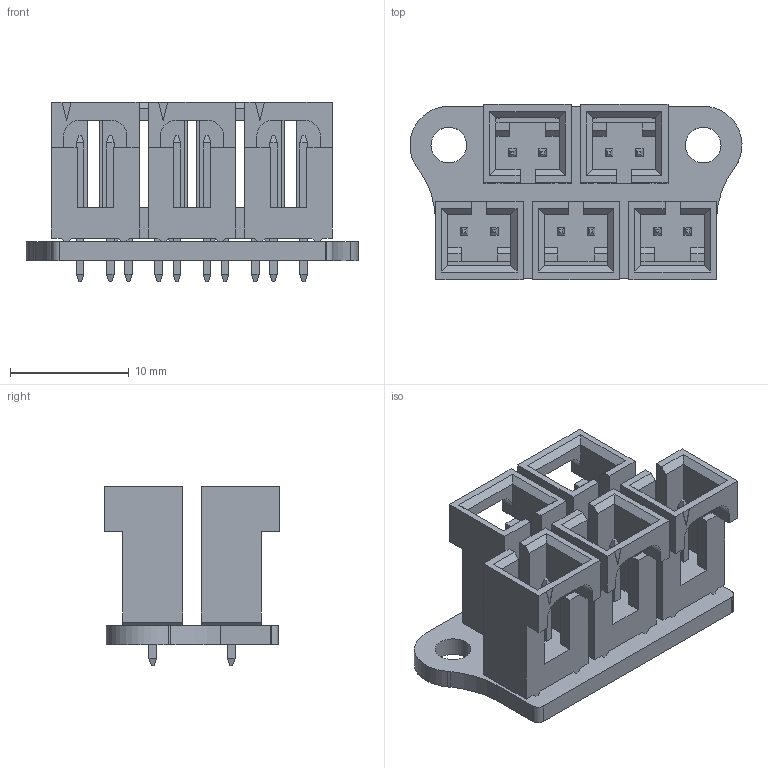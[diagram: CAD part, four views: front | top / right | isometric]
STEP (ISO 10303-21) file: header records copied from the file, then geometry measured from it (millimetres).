
FILE_DESCRIPTION(('KiCad electronic assembly'),'2;1');
FILE_NAME('TEE-CAN.step','2024-12-14T15:03:24',('Pcbnew'),('Kicad'), 'Open CASCADE STEP processor 7.6','KiCad to STEP converter','Unknown' );
FILE_SCHEMA(('AUTOMOTIVE_DESIGN { 1 0 10303 214 1 1 1 1 }'));
Length unit declared in the file: millimetre
Products named in the file (4): TEE-CAN 1; Molex-705430001; 705430001; TEE-CAN_PCB
Assembly tree (7 placements, depth 3):
  TEE-CAN 1
    Molex-705430001  x5
      705430001
    TEE-CAN_PCB
Bounding box: 27.92 x 14.73 x 15.11 mm (x, y, z)
Volume: 1892.4 mm3; surface area: 3636.3 mm2
Topology: 6 solids, 6 shells, 429 faces, 1131 edges, 744 vertices
Faces by surface type: plane 401, cylinder 28
Full cylindrical faces by diameter (mm): 1.092 x10, 3 x2
Entity records: 3494 total; most frequent: CARTESIAN_POINT 600, ORIENTED_EDGE 574, DIRECTION 569, EDGE_CURVE 287, LINE 247, VECTOR 247, VERTEX_POINT 184, AXIS2_PLACEMENT_3D 161
